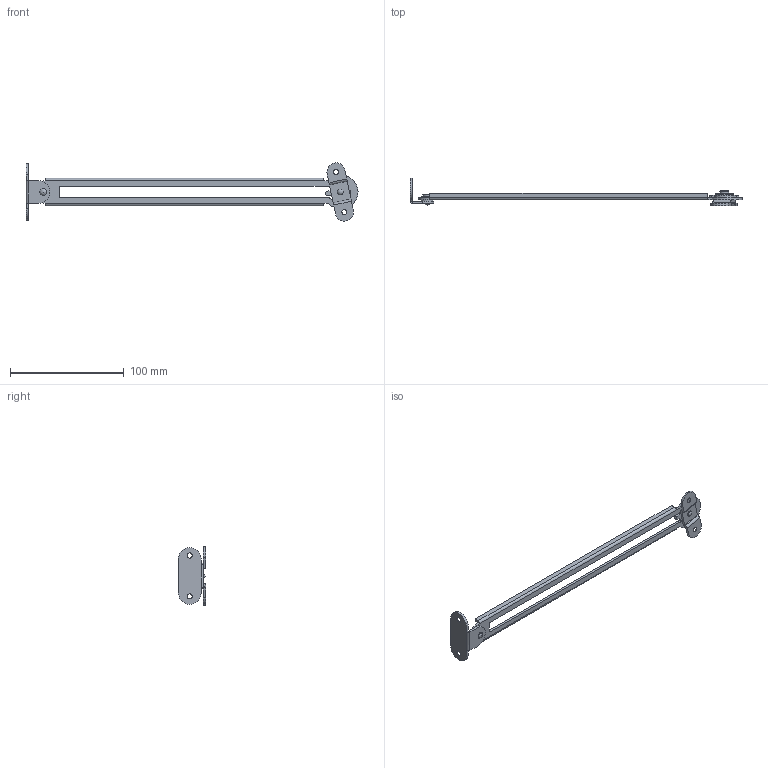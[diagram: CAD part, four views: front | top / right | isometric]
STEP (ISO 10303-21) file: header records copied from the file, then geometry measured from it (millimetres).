
FILE_DESCRIPTION((''),'2;1');
FILE_NAME('\\Cad-srv01-2\図面\900 図面交換受渡し場所\■■カタログ作成中（消さないでください)■■\1203　APPIT　3D\03購買先データ\双葉\ステー\ｽﾃｰ\EDS-91 L\EDS-91 L.stp','2013-07-11T15:48:48',('Administrator'),(''),'Autodesk Inventor 11','Autodesk Inventor 11','');
FILE_SCHEMA(('AUTOMOTIVE_DESIGN { 1 0 10303 214 1 1 1 1 }'));
Length unit declared in the file: millimetre
Products named in the file (12): S-91L-SD_ﾛｰﾀﾘｰｽﾃｰL; S-09104_L; S-09103_U; S-09107_eB; S-09101L___L; S-09106_eA; S-09105_; S-09108_N_B; S-09109__; S-09202_N_A; S-09102___; S-091011_N_D
Assembly tree (11 placements, depth 2):
  S-91L-SD_ﾛｰﾀﾘｰｽﾃｰL
    S-09104_L
    S-09103_U
    S-09107_eB
    S-09101L___L
    S-09106_eA
    S-09105_
    S-09108_N_B
    S-09109__
    S-09202_N_A
    S-09102___
    S-091011_N_D
Bounding box: 292.08 x 24 x 51.23 mm (x, y, z)
Volume: 17035.5 mm3; surface area: 21246.9 mm2
Topology: 11 solids, 11 shells, 134 faces, 295 edges, 188 vertices
Faces by surface type: plane 72, cylinder 54, cone 6, bspline 1, sphere 1
Full cylindrical faces by diameter (mm): 3.4 x1, 3.5 x1, 4 x1, 4.2 x1, 4.4 x1, 4.5 x6, 5 x2, 5.2 x4, 8 x2, 10 x3, 14 x1, 16 x1
Entity records: 3900 total; most frequent: DIRECTION 688, CARTESIAN_POINT 627, ORIENTED_EDGE 520, AXIS2_PLACEMENT_3D 272, EDGE_CURVE 260, EDGE_LOOP 198, VERTEX_POINT 184, VECTOR 144
